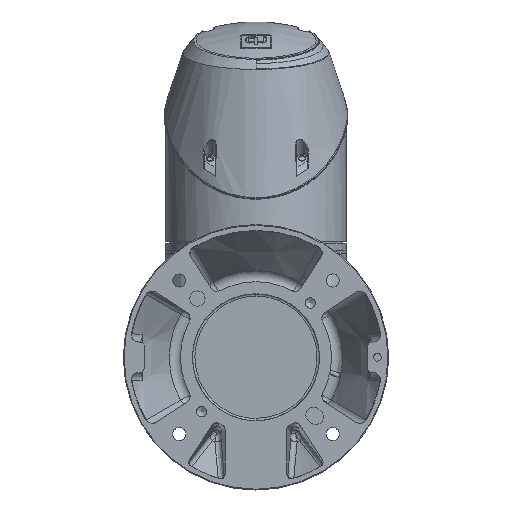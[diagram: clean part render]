
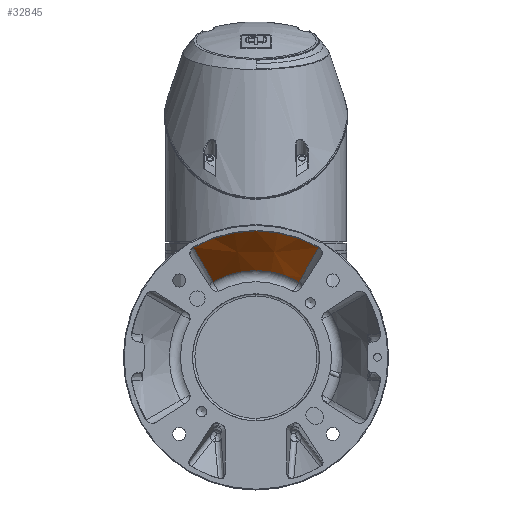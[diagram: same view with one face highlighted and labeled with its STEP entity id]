
A CAD part, front view. The second image highlights one B-rep face of the part: STEP entity #32845.
In plain terms, the highlighted conical face has half-angle 30.872 degrees and reference radius 1 mm.
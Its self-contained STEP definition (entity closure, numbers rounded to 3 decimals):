
#1496=CONICAL_SURFACE('',#35432,1.,0.539);
#2030=B_SPLINE_CURVE_WITH_KNOTS('',3,(#57714,#57715,#57716,#57717,#57718,
#57719,#57720,#57721,#57722,#57723),.UNSPECIFIED.,.F.,.F.,(4,3,3,4),(0.136,
0.441,0.746,1.),.UNSPECIFIED.);
#2031=B_SPLINE_CURVE_WITH_KNOTS('',3,(#57727,#57728,#57729,#57730,#57731,
#57732,#57733,#57734,#57735,#57736,#57737,#57738,#57739),.UNSPECIFIED.,
 .F.,.F.,(4,3,3,3,4),(0.,0.296,0.592,0.888,
1.),.UNSPECIFIED.);
#4054=LINE('',#57712,#5467);
#5467=VECTOR('',#38499,10.);
#7202=FACE_OUTER_BOUND('',#9211,.T.);
#9211=EDGE_LOOP('',(#21861,#21862,#21863,#21864,#21865));
#11343=CIRCLE('',#35433,82.299);
#11344=CIRCLE('',#35434,56.529);
#12699=VERTEX_POINT('',#57710);
#12700=VERTEX_POINT('',#57711);
#12701=VERTEX_POINT('',#57713);
#12702=VERTEX_POINT('',#57724);
#12703=VERTEX_POINT('',#57726);
#16182=EDGE_CURVE('',#12699,#12700,#4054,.T.);
#16183=EDGE_CURVE('',#12700,#12701,#2030,.T.);
#16184=EDGE_CURVE('',#12701,#12702,#11343,.T.);
#16185=EDGE_CURVE('',#12702,#12703,#2031,.T.);
#16186=EDGE_CURVE('',#12703,#12699,#11344,.T.);
#21861=ORIENTED_EDGE('',*,*,#16182,.T.);
#21862=ORIENTED_EDGE('',*,*,#16183,.T.);
#21863=ORIENTED_EDGE('',*,*,#16184,.T.);
#21864=ORIENTED_EDGE('',*,*,#16185,.T.);
#21865=ORIENTED_EDGE('',*,*,#16186,.T.);
#32845=ADVANCED_FACE('',(#7202),#1496,.F.);
#35432=AXIS2_PLACEMENT_3D('',#57709,#38497,#38498);
#35433=AXIS2_PLACEMENT_3D('',#57725,#38500,#38501);
#35434=AXIS2_PLACEMENT_3D('',#57740,#38502,#38503);
#38497=DIRECTION('center_axis',(0.,0.,
-1.));
#38498=DIRECTION('ref_axis',(0.,1.,0.));
#38499=DIRECTION('',(-0.446,-0.254,-0.858));
#38500=DIRECTION('center_axis',(0.,0.,
-1.));
#38501=DIRECTION('ref_axis',(0.,-1.,0.));
#38502=DIRECTION('center_axis',(0.,0.,
1.));
#38503=DIRECTION('ref_axis',(0.,-1.,0.));
#57709=CARTESIAN_POINT('Origin',(6.852,-6.852,151.172));
#57710=CARTESIAN_POINT('',(-42.24,-34.878,58.287));
#57711=CARTESIAN_POINT('',(-45.289,-36.613,52.42));
#57712=CARTESIAN_POINT('',(-42.24,-34.878,58.287));
#57713=CARTESIAN_POINT('',(-64.637,-47.625,15.181));
#57714=CARTESIAN_POINT('Ctrl Pts',(-45.289,-36.613,
52.42));
#57715=CARTESIAN_POINT('Ctrl Pts',(-47.565,-37.908,
48.039));
#57716=CARTESIAN_POINT('Ctrl Pts',(-49.841,-39.204,
43.658));
#57717=CARTESIAN_POINT('Ctrl Pts',(-52.117,-40.499,
39.278));
#57718=CARTESIAN_POINT('Ctrl Pts',(-54.393,-41.795,34.897));
#57719=CARTESIAN_POINT('Ctrl Pts',(-56.669,-43.09,
30.516));
#57720=CARTESIAN_POINT('Ctrl Pts',(-58.945,-44.386,
26.136));
#57721=CARTESIAN_POINT('Ctrl Pts',(-60.842,-45.466,22.484));
#57722=CARTESIAN_POINT('Ctrl Pts',(-62.74,-46.546,
18.832));
#57723=CARTESIAN_POINT('Ctrl Pts',(-64.637,-47.625,
15.181));
#57724=CARTESIAN_POINT('',(-64.637,33.922,15.181));
#57725=CARTESIAN_POINT('Origin',(6.852,-6.852,15.181));
#57726=CARTESIAN_POINT('',(-42.24,21.174,58.287));
#57727=CARTESIAN_POINT('Ctrl Pts',(-64.637,33.922,15.181));
#57728=CARTESIAN_POINT('Ctrl Pts',(-62.428,32.665,19.432));
#57729=CARTESIAN_POINT('Ctrl Pts',(-60.22,31.408,23.682));
#57730=CARTESIAN_POINT('Ctrl Pts',(-58.011,30.15,27.933));
#57731=CARTESIAN_POINT('Ctrl Pts',(-55.803,28.893,32.184));
#57732=CARTESIAN_POINT('Ctrl Pts',(-53.594,27.636,36.435));
#57733=CARTESIAN_POINT('Ctrl Pts',(-51.386,26.379,40.685));
#57734=CARTESIAN_POINT('Ctrl Pts',(-49.177,25.122,44.936));
#57735=CARTESIAN_POINT('Ctrl Pts',(-46.969,23.865,49.187));
#57736=CARTESIAN_POINT('Ctrl Pts',(-44.76,22.608,53.438));
#57737=CARTESIAN_POINT('Ctrl Pts',(-43.92,22.13,55.054));
#57738=CARTESIAN_POINT('Ctrl Pts',(-43.08,21.652,56.67));
#57739=CARTESIAN_POINT('Ctrl Pts',(-42.24,21.174,58.287));
#57740=CARTESIAN_POINT('Origin',(6.852,-6.852,58.287));
